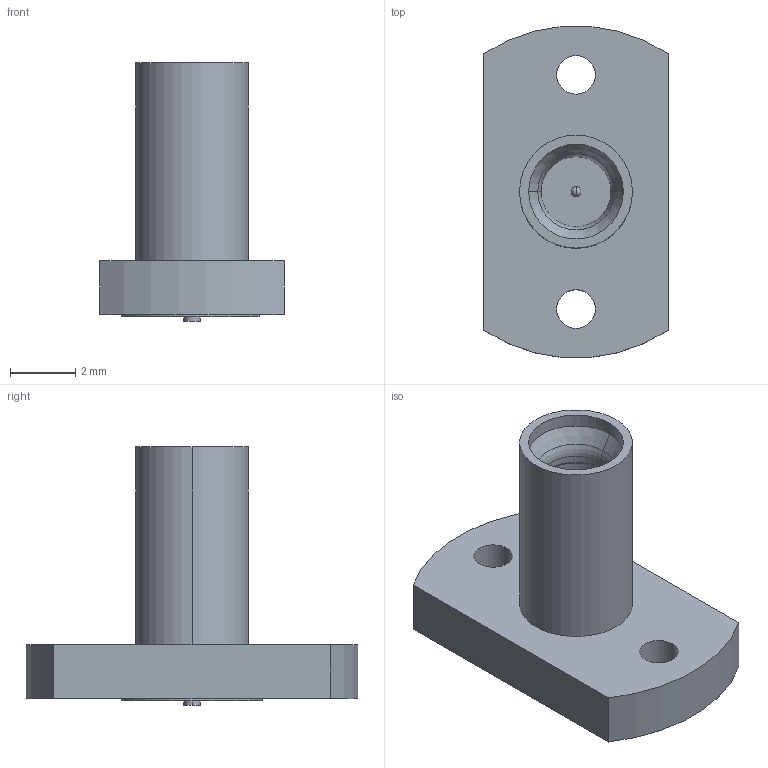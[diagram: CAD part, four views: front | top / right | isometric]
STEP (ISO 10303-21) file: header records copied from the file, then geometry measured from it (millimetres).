
FILE_DESCRIPTION (( 'STEP AP214' ), '1' );
FILE_NAME ('SF3211-60193.STEP', '2018-03-15T06:19:41', ( '' ), ( '' ), 'SwSTEP 2.0', 'SolidWorks 2016', '' );
FILE_SCHEMA (( 'AUTOMOTIVE_DESIGN' ));
Length unit declared in the file: inch
Products named in the file (1): SF3211-60193
Bounding box: 5.64 x 10.12 x 7.9 mm (x, y, z)
Volume: 132 mm3; surface area: 248.2 mm2
Topology: 1 solids, 1 shells, 40 faces, 95 edges, 59 vertices
Faces by surface type: cylinder 22, plane 10, cone 4, sphere 2, torus 2
Entity records: 1697 total; most frequent: DIRECTION 222, CARTESIAN_POINT 211, ORIENTED_EDGE 186, EDGE_CURVE 93, AXIS2_PLACEMENT_3D 90, VERTEX_POINT 59, CIRCLE 49, EDGE_LOOP 48
